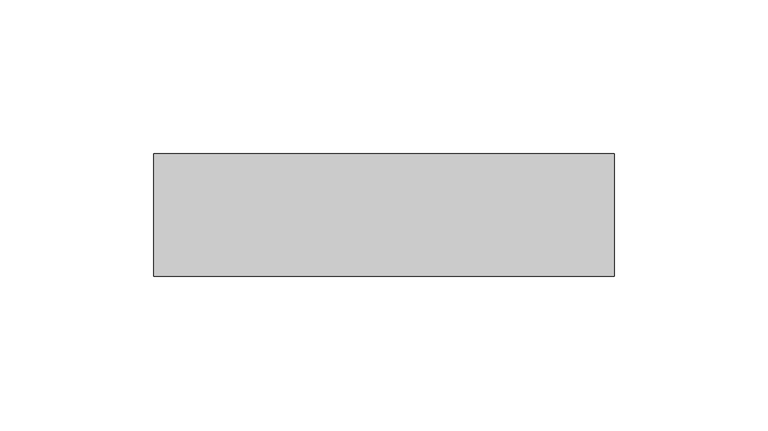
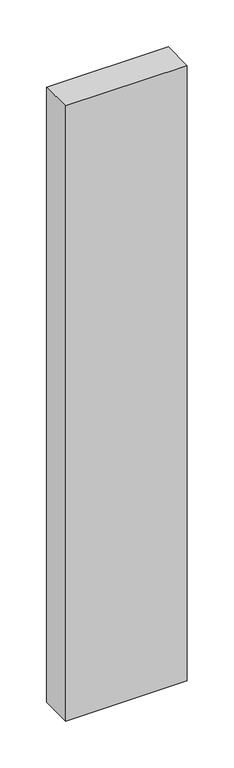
"""IFC4 building model written with IfcOpenShell, lengths in millimetres: plate geometry, Vitré."""

from ifc_helpers import new_model, si_unit, origin, origin_with_axes, place, context, project, spatial, polyline, outline, extrude, source, transform, mapped, element, save


def plate_044b15d4(model_context):
    return source(origin(), model_context, "Body", "SweptSolid", [
        extrude(outline(polyline([(-75.0, -20.0), (-75.0, 20.0), (75.0, 20.0), (75.0, -20.0), (-75.0, -20.0)])), origin_with_axes(), (0.0, 0.0, 1.0), 801.2351114),
    ])


if __name__ == "__main__":
    model = new_model("IFC4")
    model_context = context("Model", 3, world=origin())
    ifc_project = project(units=[si_unit("LENGTHUNIT", "METRE", prefix="MILLI")], contexts=[model_context])
    site = spatial("IfcSite", under=ifc_project)
    building = spatial("IfcBuilding", under=site)
    placement = place(None, origin())
    plate_shape = plate_044b15d4(model_context)
    element("IfcPlate", 1, ObjectType="Vitré", at=placement, inside=building, context=model_context, shape_type="MappedRepresentation", body=[
        mapped(plate_shape, transform((0.0, 0.0, 0.0), x_axis=(1.0, 0.0, 0.0), y_axis=(0.0, 1.0, 0.0), z_axis=(0.0, 0.0, 1.0))),
    ])
    save(model, "model.ifc")
